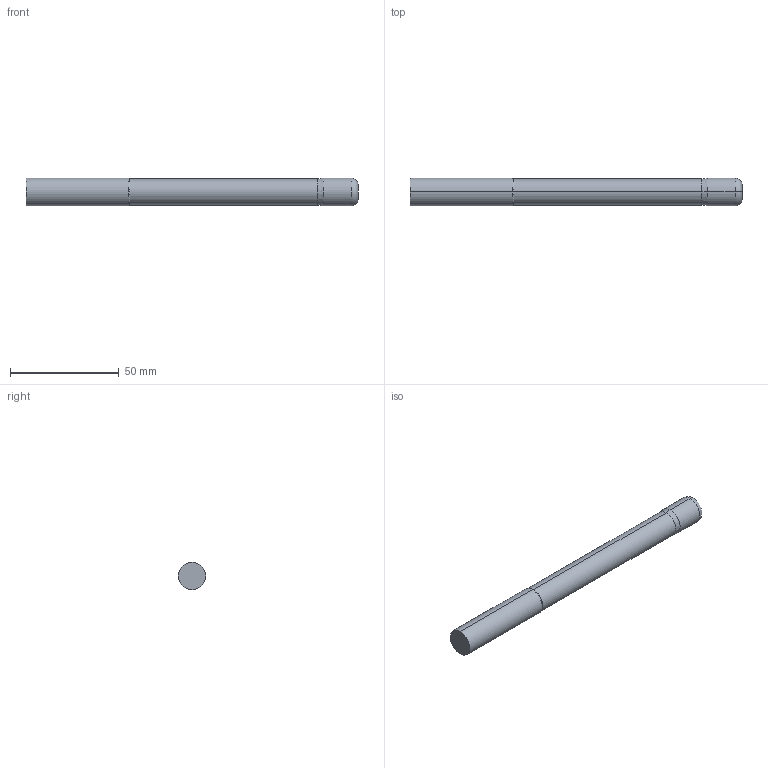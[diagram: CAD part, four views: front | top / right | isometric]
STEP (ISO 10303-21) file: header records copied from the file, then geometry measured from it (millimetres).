
FILE_DESCRIPTION (( 'STEP AP214' ), '1' );
FILE_NAME ('SSIRNX70500-120.STEP', '2025-05-30T15:06:21', ( '' ), ( '' ), 'SwSTEP 2.0', 'SolidWorks 2023', '' );
FILE_SCHEMA (( 'AUTOMOTIVE_DESIGN' ));
Length unit declared in the file: inch
Products named in the file (3): SSI7 Shank Only_SSIRNX70500-120; SSI7 Cut Only_SSIRNX70500-120; SSIRNX70500-120
Assembly tree (2 placements, depth 2):
  SSIRNX70500-120
    SSI7 Cut Only_SSIRNX70500-120
    SSI7 Shank Only_SSIRNX70500-120
Bounding box: 152.4 x 12.7 x 12.7 mm (x, y, z)
Volume: 18148.9 mm3; surface area: 6359.6 mm2
Topology: 2 solids, 2 shells, 16 faces, 28 edges, 16 vertices
Faces by surface type: cylinder 6, plane 4, cone 4, torus 2
Entity records: 484 total; most frequent: DIRECTION 88, CARTESIAN_POINT 65, ORIENTED_EDGE 56, AXIS2_PLACEMENT_3D 39, EDGE_CURVE 28, CIRCLE 18, FACE_OUTER_BOUND 16, EDGE_LOOP 16
